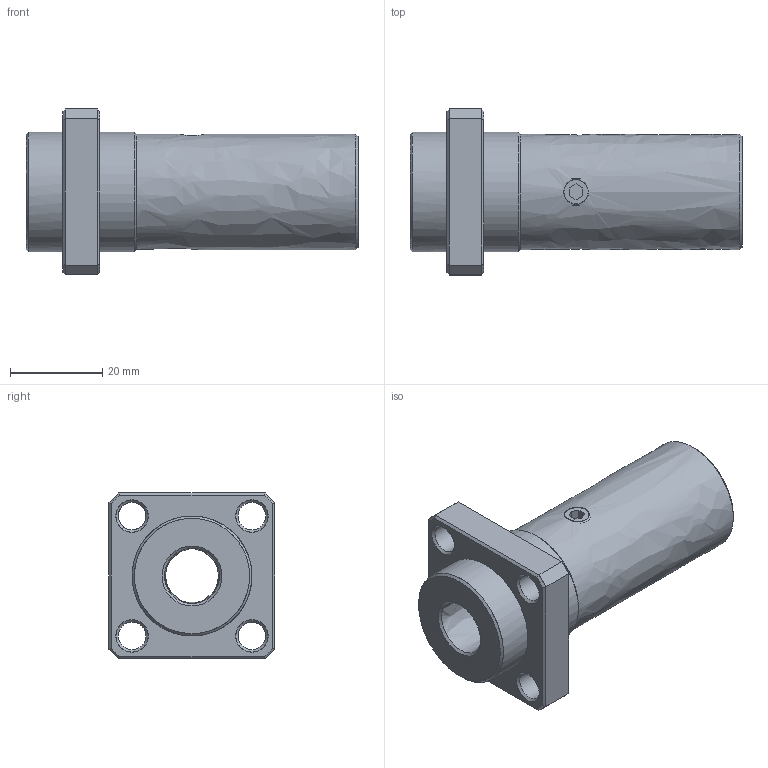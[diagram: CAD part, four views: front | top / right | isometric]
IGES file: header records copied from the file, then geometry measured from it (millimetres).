
Start section: Missler Software 3 rue Hermes, EUROPARC, 31520 Ramonville-Saint-Agne, France Tel   : +33 (0)5 61 00 03 00 Fax   : +33 (0)5 61 00 03 03 Email : sup.solid@topsolid.com
Global section: file name: \\192.168.1.1\share\s-4 技術開発\s-4-4_CAD\s-4-4-3_見直し済み\009 修正済み\LCF-B(済)\LCF-B_TOP\LCF-12BUU.igs; native system: TopSolid v611216 Missler Software; preprocessor: IGES preprocessor v100000; author: yu; organization: コダマコーポレーション株式会社, 10,7,13H22020; date: 220203.164802; units: millimetre
Bounding box: 72 x 36 x 36 mm (x, y, z)
Surface area: 11638.7 mm2 (no closed solid volume)
Topology: 0 solids, 0 shells, 62 faces, 665 edges, 654 vertices
Faces by surface type: bspline 62
